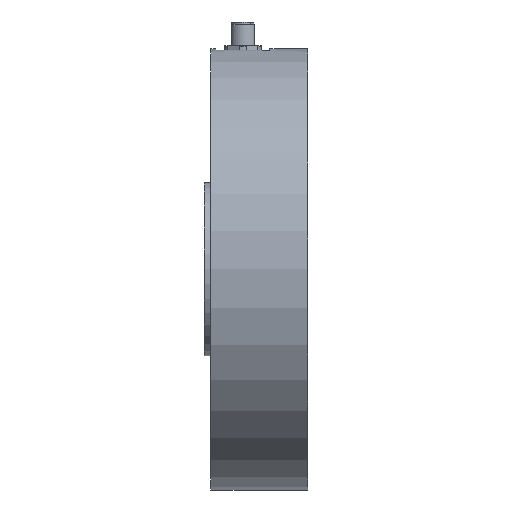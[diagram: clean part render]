
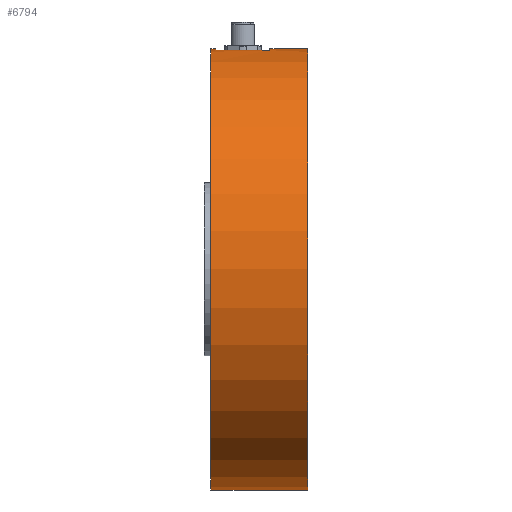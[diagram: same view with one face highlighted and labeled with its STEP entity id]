
A CAD part, left-side view. The second image highlights one B-rep face of the part: STEP entity #6794.
In plain terms, the highlighted cylindrical face has radius 101.5 mm (diameter 203 mm), a partial arc.
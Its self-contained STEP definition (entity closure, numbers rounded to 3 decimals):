
#438 = DIRECTION ( 'NONE',  ( 0., 0., -1. ) ) ;
#556 = AXIS2_PLACEMENT_3D ( 'NONE', #8584, #7072, #438 ) ;
#617 = EDGE_CURVE ( 'NONE', #20192, #16044, #967, .T. ) ;
#873 = EDGE_CURVE ( 'NONE', #4695, #20192, #14259, .T. ) ;
#967 = LINE ( 'NONE', #14276, #11420 ) ;
#1003 = VECTOR ( 'NONE', #14255, 1000. ) ;
#1007 = CARTESIAN_POINT ( 'NONE',  ( 0., 42.4, 0. ) ) ;
#1157 = CARTESIAN_POINT ( 'NONE',  ( 0., 44.6, 101.5 ) ) ;
#1301 = AXIS2_PLACEMENT_3D ( 'NONE', #2815, #11082, #6368 ) ;
#1545 = EDGE_CURVE ( 'NONE', #11899, #10309, #16607, .T. ) ;
#1770 = DIRECTION ( 'NONE',  ( 0., -1., 0. ) ) ;
#2266 = EDGE_CURVE ( 'NONE', #16044, #10308, #3982, .T. ) ;
#2815 = CARTESIAN_POINT ( 'NONE',  ( 0., 44.6, 0. ) ) ;
#3157 = CARTESIAN_POINT ( 'NONE',  ( 0., 42.4, 101.5 ) ) ;
#3526 = AXIS2_PLACEMENT_3D ( 'NONE', #7305, #8802, #15357 ) ;
#3742 = VERTEX_POINT ( 'NONE', #10093 ) ;
#3982 = CIRCLE ( 'NONE', #14974, 101.5 ) ;
#3990 = ORIENTED_EDGE ( 'NONE', *, *, #873, .T. ) ;
#4439 = DIRECTION ( 'NONE',  ( 0., 1., 0. ) ) ;
#4541 = CYLINDRICAL_SURFACE ( 'NONE', #1301, 101.5 ) ;
#4604 = ORIENTED_EDGE ( 'NONE', *, *, #15818, .T. ) ;
#4695 = VERTEX_POINT ( 'NONE', #12503 ) ;
#5144 = CARTESIAN_POINT ( 'NONE',  ( 0., 44.6, 101.5 ) ) ;
#5686 = ORIENTED_EDGE ( 'NONE', *, *, #18146, .F. ) ;
#6200 = CARTESIAN_POINT ( 'NONE',  ( -12.5, 17.4, 100.727 ) ) ;
#6368 = DIRECTION ( 'NONE',  ( 0., 0., -1. ) ) ;
#6794 = ADVANCED_FACE ( 'NONE', ( #14634 ), #4541, .T. ) ;
#6954 = CIRCLE ( 'NONE', #3526, 101.5 ) ;
#7072 = DIRECTION ( 'NONE',  ( 0., -1., 0. ) ) ;
#7305 = CARTESIAN_POINT ( 'NONE',  ( 0., 0., 0. ) ) ;
#7557 = DIRECTION ( 'NONE',  ( -1., 0., 0. ) ) ;
#7703 = LINE ( 'NONE', #18759, #1003 ) ;
#8149 = ORIENTED_EDGE ( 'NONE', *, *, #18414, .F. ) ;
#8584 = CARTESIAN_POINT ( 'NONE',  ( 0., 17.4, 0. ) ) ;
#8802 = DIRECTION ( 'NONE',  ( 0., 1., 0. ) ) ;
#10093 = CARTESIAN_POINT ( 'NONE',  ( 0., 0., -101.5 ) ) ;
#10125 = ORIENTED_EDGE ( 'NONE', *, *, #19536, .T. ) ;
#10267 = DIRECTION ( 'NONE',  ( 0., -1., 0. ) ) ;
#10308 = VERTEX_POINT ( 'NONE', #3157 ) ;
#10309 = VERTEX_POINT ( 'NONE', #1157 ) ;
#10464 = DIRECTION ( 'NONE',  ( 0., 0., 1. ) ) ;
#11082 = DIRECTION ( 'NONE',  ( 0., -1., 0. ) ) ;
#11296 = EDGE_LOOP ( 'NONE', ( #5686, #11366, #4604, #10125, #8149, #3990, #18266, #17824 ) ) ;
#11366 = ORIENTED_EDGE ( 'NONE', *, *, #1545, .F. ) ;
#11386 = CARTESIAN_POINT ( 'NONE',  ( 0., 0., 101.5 ) ) ;
#11420 = VECTOR ( 'NONE', #14070, 1000. ) ;
#11899 = VERTEX_POINT ( 'NONE', #19809 ) ;
#12503 = CARTESIAN_POINT ( 'NONE',  ( 0., 17.4, 101.5 ) ) ;
#13180 = AXIS2_PLACEMENT_3D ( 'NONE', #16820, #20246, #10464 ) ;
#14070 = DIRECTION ( 'NONE',  ( 0., 1., 0. ) ) ;
#14255 = DIRECTION ( 'NONE',  ( 0., -1., 0. ) ) ;
#14259 = CIRCLE ( 'NONE', #556, 101.5 ) ;
#14276 = CARTESIAN_POINT ( 'NONE',  ( -12.5, 44.6, 100.727 ) ) ;
#14557 = CARTESIAN_POINT ( 'NONE',  ( -12.5, 42.4, 100.727 ) ) ;
#14634 = FACE_OUTER_BOUND ( 'NONE', #11296, .T. ) ;
#14974 = AXIS2_PLACEMENT_3D ( 'NONE', #1007, #4439, #7557 ) ;
#15106 = VERTEX_POINT ( 'NONE', #11386 ) ;
#15357 = DIRECTION ( 'NONE',  ( 0., 0., 1. ) ) ;
#15818 = EDGE_CURVE ( 'NONE', #11899, #3742, #7703, .T. ) ;
#16044 = VERTEX_POINT ( 'NONE', #14557 ) ;
#16607 = CIRCLE ( 'NONE', #13180, 101.5 ) ;
#16820 = CARTESIAN_POINT ( 'NONE',  ( 0., 44.6, 0. ) ) ;
#17398 = VECTOR ( 'NONE', #1770, 1000. ) ;
#17824 = ORIENTED_EDGE ( 'NONE', *, *, #2266, .T. ) ;
#17966 = LINE ( 'NONE', #19697, #17398 ) ;
#18146 = EDGE_CURVE ( 'NONE', #10309, #10308, #20148, .T. ) ;
#18266 = ORIENTED_EDGE ( 'NONE', *, *, #617, .T. ) ;
#18414 = EDGE_CURVE ( 'NONE', #4695, #15106, #17966, .T. ) ;
#18759 = CARTESIAN_POINT ( 'NONE',  ( 0., 44.6, -101.5 ) ) ;
#19107 = VECTOR ( 'NONE', #10267, 1000. ) ;
#19536 = EDGE_CURVE ( 'NONE', #3742, #15106, #6954, .T. ) ;
#19697 = CARTESIAN_POINT ( 'NONE',  ( 0., 44.6, 101.5 ) ) ;
#19809 = CARTESIAN_POINT ( 'NONE',  ( 0., 44.6, -101.5 ) ) ;
#20148 = LINE ( 'NONE', #5144, #19107 ) ;
#20192 = VERTEX_POINT ( 'NONE', #6200 ) ;
#20246 = DIRECTION ( 'NONE',  ( 0., 1., 0. ) ) ;
